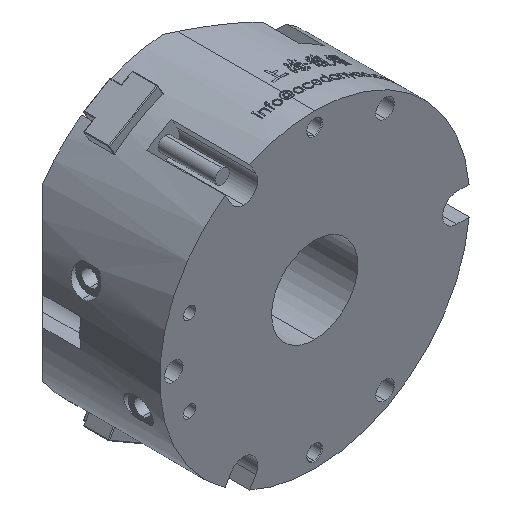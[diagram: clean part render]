
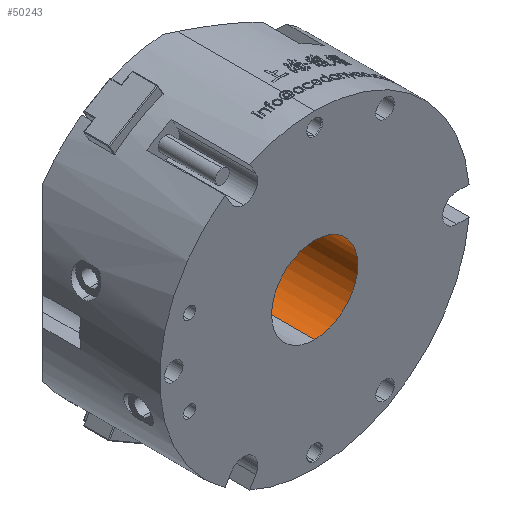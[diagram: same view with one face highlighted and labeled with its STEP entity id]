
A CAD part, isometric view. The second image highlights one B-rep face of the part: STEP entity #50243.
In plain terms, the highlighted cylindrical face has radius 30.25 mm (diameter 60.5 mm), a partial arc.
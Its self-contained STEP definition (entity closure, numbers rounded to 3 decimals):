
#375 = CARTESIAN_POINT ( 'NONE',  ( 0., 0., -30.25 ) ) ;
#1521 = CARTESIAN_POINT ( 'NONE',  ( 0., 100., -30.25 ) ) ;
#2477 = AXIS2_PLACEMENT_3D ( 'NONE', #24510, #86950, #33481 ) ;
#2537 = CARTESIAN_POINT ( 'NONE',  ( 0., 100., 0. ) ) ;
#5866 = DIRECTION ( 'NONE',  ( 0., -1., 0. ) ) ;
#8654 = LINE ( 'NONE', #1521, #103571 ) ;
#11497 = DIRECTION ( 'NONE',  ( 0., 0., -1. ) ) ;
#11573 = AXIS2_PLACEMENT_3D ( 'NONE', #79130, #25614, #88038 ) ;
#12524 = VERTEX_POINT ( 'NONE', #53750 ) ;
#16081 = ORIENTED_EDGE ( 'NONE', *, *, #74681, .T. ) ;
#19580 = CARTESIAN_POINT ( 'NONE',  ( 0., 100., 30.25 ) ) ;
#24510 = CARTESIAN_POINT ( 'NONE',  ( 0., 0., 0. ) ) ;
#25614 = DIRECTION ( 'NONE',  ( 0., -1., 0. ) ) ;
#28863 = DIRECTION ( 'NONE',  ( 0., -1., 0. ) ) ;
#28937 = VERTEX_POINT ( 'NONE', #19580 ) ;
#32644 = ORIENTED_EDGE ( 'NONE', *, *, #69950, .F. ) ;
#32874 = LINE ( 'NONE', #94457, #103994 ) ;
#33481 = DIRECTION ( 'NONE',  ( 0., 0., -1. ) ) ;
#35327 = CIRCLE ( 'NONE', #11573, 30.25 ) ;
#38488 = CYLINDRICAL_SURFACE ( 'NONE', #112255, 30.25 ) ;
#42430 = VERTEX_POINT ( 'NONE', #375 ) ;
#42659 = EDGE_CURVE ( 'NONE', #42430, #49882, #106973, .T. ) ;
#46281 = ORIENTED_EDGE ( 'NONE', *, *, #42659, .T. ) ;
#49882 = VERTEX_POINT ( 'NONE', #54234 ) ;
#50243 = ADVANCED_FACE ( 'NONE', ( #109615 ), #38488, .F. ) ;
#50700 = EDGE_CURVE ( 'NONE', #28937, #49882, #32874, .T. ) ;
#53750 = CARTESIAN_POINT ( 'NONE',  ( 0., 100., -30.25 ) ) ;
#54234 = CARTESIAN_POINT ( 'NONE',  ( 0., 0., 30.25 ) ) ;
#69950 = EDGE_CURVE ( 'NONE', #12524, #28937, #35327, .T. ) ;
#74681 = EDGE_CURVE ( 'NONE', #12524, #42430, #8654, .T. ) ;
#79130 = CARTESIAN_POINT ( 'NONE',  ( 0., 100., 0. ) ) ;
#86950 = DIRECTION ( 'NONE',  ( 0., -1., 0. ) ) ;
#88038 = DIRECTION ( 'NONE',  ( 0., 0., -1. ) ) ;
#93424 = ORIENTED_EDGE ( 'NONE', *, *, #50700, .F. ) ;
#94457 = CARTESIAN_POINT ( 'NONE',  ( 0., 100., 30.25 ) ) ;
#103571 = VECTOR ( 'NONE', #28863, 1000. ) ;
#103994 = VECTOR ( 'NONE', #5866, 1000. ) ;
#106973 = CIRCLE ( 'NONE', #2477, 30.25 ) ;
#109417 = DIRECTION ( 'NONE',  ( 0., -1., 0. ) ) ;
#109615 = FACE_OUTER_BOUND ( 'NONE', #114753, .T. ) ;
#112255 = AXIS2_PLACEMENT_3D ( 'NONE', #2537, #109417, #11497 ) ;
#114753 = EDGE_LOOP ( 'NONE', ( #93424, #32644, #16081, #46281 ) ) ;
